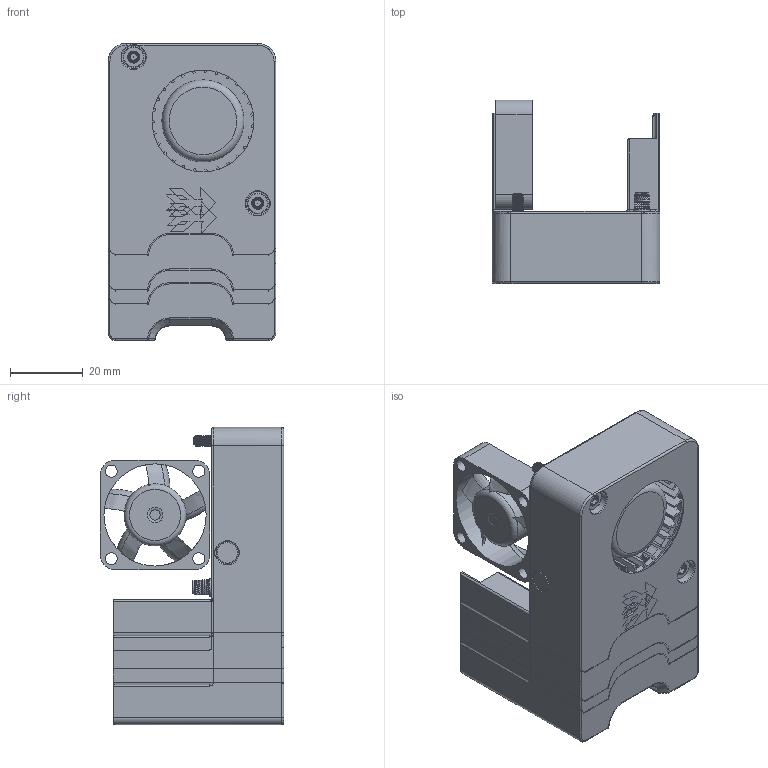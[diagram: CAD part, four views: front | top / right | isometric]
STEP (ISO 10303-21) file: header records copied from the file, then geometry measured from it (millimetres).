
FILE_DESCRIPTION(/* description */ (''),/* implementation_level */ '2;1');
FILE_NAME(/* name */ 'Daksh V2ool Fans FD v9.step',/* time_stamp */ '2024-06-21T18:00:55+07:00',/* author */ (''),/* organization */ (''),/* preprocessor_version */ 'ST-DEVELOPER v20',/* originating_system */ 'Autodesk Translation Framework v13.14.0.145',/* authorisation */ '');
FILE_SCHEMA (('AUTOMOTIVE_DESIGN { 1 0 10303 214 3 1 1 }'));
Products named in the file (25): Daksh V2ool Fans FD; Fan; Printed Parts (3); Main Fan Body; Fan Body; Goliath Fan Body; m3 brass insert (4) (2); Goliath Fan Body (1) (1); V6 Volcano Fan Body; m3 brass insert (8) (2); V6 Volcano Fan Body (1) (1); Phaetus Dragon UHF Fan Body; m3 brass insert (15); Phaetus Dragon UHF Fan Body (1); Phaetus Rapido Fan Body (1); m3 brass insert (34); Phaetus Rapido Fan Body (2); Hardware (5); 6 x 3mm magnet (2) (1); m3 x 20mm shcs; m3 x 20mm shcs (1) (3); 4020 blower fan v1; 4020p1; 4020p3; 3010 Fan v1
Assembly tree (24 placements, depth 5):
  Daksh V2ool Fans FD
    Fan
      Printed Parts (3)
        Main Fan Body
          Fan Body
        Goliath Fan Body
          m3 brass insert (4) (2)
          Goliath Fan Body (1) (1)
        V6 Volcano Fan Body
          m3 brass insert (8) (2)
          V6 Volcano Fan Body (1) (1)
        Phaetus Dragon UHF Fan Body
          m3 brass insert (15)
          Phaetus Dragon UHF Fan Body (1)
        Phaetus Rapido Fan Body (1)
          m3 brass insert (34)
          Phaetus Rapido Fan Body (2)
      Hardware (5)
        6 x 3mm magnet (2) (1)
        m3 x 20mm shcs
        m3 x 20mm shcs (1) (3)
      4020 blower fan v1
        4020p1
        4020p3
      3010 Fan v1
Bounding box: 46 x 50.25 x 81.44 mm (x, y, z)
Volume: 133273.6 mm3; surface area: 109496.3 mm2
Topology: 15 solids, 15 shells, 3531 faces, 9464 edges, 5877 vertices
Faces by surface type: cylinder 1317, plane 1022, bspline 612, torus 382, cone 130, sphere 68
Full cylindrical faces by diameter (mm): 1 x2, 2.376 x40, 3 x38, 3.3 x7, 3.4 x10, 3.505 x4, 3.564 x4, 4.5 x3, 4.751 x4, 5.58 x2, 5.68 x2, 6 x1, 6.5 x10, 17 x1, 22.5 x1, 28 x1, 33.8 x1
Entity records: 171584 total; most frequent: CARTESIAN_POINT 85818, ORIENTED_EDGE 18814, DIRECTION 17334, EDGE_CURVE 9407, AXIS2_PLACEMENT_3D 6611, VERTEX_POINT 5877, LINE 4112, VECTOR 4112
